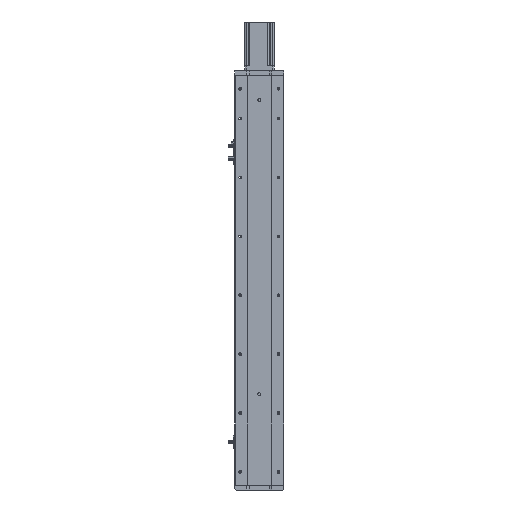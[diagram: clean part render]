
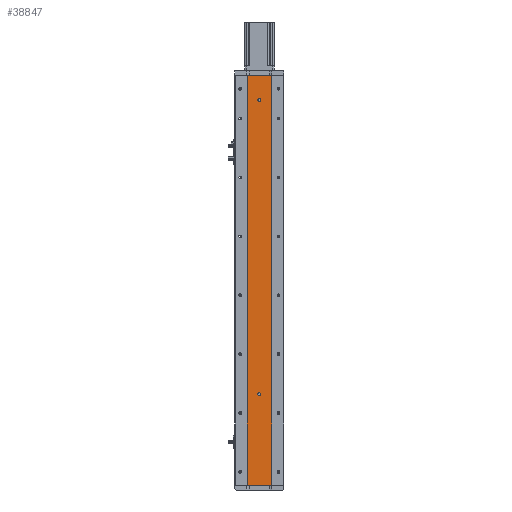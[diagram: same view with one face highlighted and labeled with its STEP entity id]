
A CAD part, left-side view. The second image highlights one B-rep face of the part: STEP entity #38847.
In plain terms, the highlighted planar face has unit normal (-1, 0, 0).
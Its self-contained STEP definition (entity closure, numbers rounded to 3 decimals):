
#51 = VERTEX_POINT ( 'NONE', #19376 ) ;
#591 = ORIENTED_EDGE ( 'NONE', *, *, #18627, .F. ) ;
#660 = DIRECTION ( 'NONE',  ( 0., 0., 1. ) ) ;
#2183 = ORIENTED_EDGE ( 'NONE', *, *, #6222, .T. ) ;
#2382 = CARTESIAN_POINT ( 'NONE',  ( -18.926, 0., 182. ) ) ;
#2389 = EDGE_CURVE ( 'NONE', #14135, #17433, #12291, .T. ) ;
#3902 = EDGE_LOOP ( 'NONE', ( #22778, #591, #15667, #2183 ) ) ;
#4126 = VECTOR ( 'NONE', #36065, 1000. ) ;
#4174 = ORIENTED_EDGE ( 'NONE', *, *, #2389, .F. ) ;
#4323 = VERTEX_POINT ( 'NONE', #34530 ) ;
#4529 = DIRECTION ( 'NONE',  ( -1., 0., 0. ) ) ;
#4809 = CARTESIAN_POINT ( 'NONE',  ( -18.926, 24.785, 0. ) ) ;
#4815 = DIRECTION ( 'NONE',  ( 0., -1., 0. ) ) ;
#5595 = AXIS2_PLACEMENT_3D ( 'NONE', #28554, #9864, #31673 ) ;
#6222 = EDGE_CURVE ( 'NONE', #32697, #33453, #13434, .T. ) ;
#6714 = EDGE_CURVE ( 'NONE', #32697, #4323, #17756, .T. ) ;
#7150 = FACE_BOUND ( 'NONE', #38218, .T. ) ;
#7961 = DIRECTION ( 'NONE',  ( 0., -1., 0. ) ) ;
#8367 = EDGE_LOOP ( 'NONE', ( #4174, #35479 ) ) ;
#8569 = CARTESIAN_POINT ( 'NONE',  ( -18.926, 0., 185. ) ) ;
#9044 = CARTESIAN_POINT ( 'NONE',  ( -18.926, 0., 788. ) ) ;
#9387 = AXIS2_PLACEMENT_3D ( 'NONE', #23168, #4529, #26342 ) ;
#9430 = DIRECTION ( 'NONE',  ( -1., 0., 0. ) ) ;
#9497 = VECTOR ( 'NONE', #4815, 1000. ) ;
#9761 = ORIENTED_EDGE ( 'NONE', *, *, #22047, .F. ) ;
#9864 = DIRECTION ( 'NONE',  ( 1., 0., 0. ) ) ;
#11103 = CARTESIAN_POINT ( 'NONE',  ( -18.926, 24.785, 835. ) ) ;
#11286 = ORIENTED_EDGE ( 'NONE', *, *, #28753, .F. ) ;
#11568 = CIRCLE ( 'NONE', #13459, 3. ) ;
#11712 = DIRECTION ( 'NONE',  ( 0., 0., 1. ) ) ;
#12291 = CIRCLE ( 'NONE', #9387, 3. ) ;
#13434 = LINE ( 'NONE', #17374, #33406 ) ;
#13459 = AXIS2_PLACEMENT_3D ( 'NONE', #8569, #30396, #11712 ) ;
#13474 = FACE_OUTER_BOUND ( 'NONE', #3902, .T. ) ;
#14135 = VERTEX_POINT ( 'NONE', #9044 ) ;
#14238 = VERTEX_POINT ( 'NONE', #37585 ) ;
#15075 = CARTESIAN_POINT ( 'NONE',  ( -18.926, 24.785, 0. ) ) ;
#15667 = ORIENTED_EDGE ( 'NONE', *, *, #6714, .F. ) ;
#16593 = AXIS2_PLACEMENT_3D ( 'NONE', #38050, #19352, #660 ) ;
#16934 = CIRCLE ( 'NONE', #16593, 3. ) ;
#17239 = DIRECTION ( 'NONE',  ( 0., 0., -1. ) ) ;
#17374 = CARTESIAN_POINT ( 'NONE',  ( -18.926, 24.785, 835. ) ) ;
#17433 = VERTEX_POINT ( 'NONE', #22470 ) ;
#17756 = LINE ( 'NONE', #11103, #9497 ) ;
#18573 = EDGE_CURVE ( 'NONE', #33453, #14238, #25603, .T. ) ;
#18627 = EDGE_CURVE ( 'NONE', #4323, #14238, #29015, .T. ) ;
#19352 = DIRECTION ( 'NONE',  ( -1., 0., 0. ) ) ;
#19376 = CARTESIAN_POINT ( 'NONE',  ( -18.926, 0., 188. ) ) ;
#22047 = EDGE_CURVE ( 'NONE', #33419, #51, #11568, .T. ) ;
#22470 = CARTESIAN_POINT ( 'NONE',  ( -18.926, 0., 782. ) ) ;
#22778 = ORIENTED_EDGE ( 'NONE', *, *, #18573, .T. ) ;
#23168 = CARTESIAN_POINT ( 'NONE',  ( -18.926, 0., 785. ) ) ;
#25603 = LINE ( 'NONE', #4809, #37346 ) ;
#26342 = DIRECTION ( 'NONE',  ( 0., 0., 1. ) ) ;
#28127 = CARTESIAN_POINT ( 'NONE',  ( -18.926, 0., 185. ) ) ;
#28554 = CARTESIAN_POINT ( 'NONE',  ( -18.926, 24.785, 835. ) ) ;
#28753 = EDGE_CURVE ( 'NONE', #51, #33419, #35640, .T. ) ;
#29015 = LINE ( 'NONE', #39199, #4126 ) ;
#30396 = DIRECTION ( 'NONE',  ( -1., 0., 0. ) ) ;
#31246 = DIRECTION ( 'NONE',  ( 0., 0., 1. ) ) ;
#31534 = PLANE ( 'NONE',  #5595 ) ;
#31673 = DIRECTION ( 'NONE',  ( 0., 0., -1. ) ) ;
#32697 = VERTEX_POINT ( 'NONE', #38093 ) ;
#33406 = VECTOR ( 'NONE', #17239, 1000. ) ;
#33419 = VERTEX_POINT ( 'NONE', #2382 ) ;
#33453 = VERTEX_POINT ( 'NONE', #15075 ) ;
#34530 = CARTESIAN_POINT ( 'NONE',  ( -18.926, -24.785, 835. ) ) ;
#35479 = ORIENTED_EDGE ( 'NONE', *, *, #35609, .F. ) ;
#35609 = EDGE_CURVE ( 'NONE', #17433, #14135, #16934, .T. ) ;
#35640 = CIRCLE ( 'NONE', #39852, 3. ) ;
#36065 = DIRECTION ( 'NONE',  ( 0., 0., -1. ) ) ;
#37346 = VECTOR ( 'NONE', #7961, 1000. ) ;
#37425 = FACE_BOUND ( 'NONE', #8367, .T. ) ;
#37585 = CARTESIAN_POINT ( 'NONE',  ( -18.926, -24.785, 0. ) ) ;
#38050 = CARTESIAN_POINT ( 'NONE',  ( -18.926, 0., 785. ) ) ;
#38093 = CARTESIAN_POINT ( 'NONE',  ( -18.926, 24.785, 835. ) ) ;
#38218 = EDGE_LOOP ( 'NONE', ( #11286, #9761 ) ) ;
#38847 = ADVANCED_FACE ( 'NONE', ( #7150, #37425, #13474 ), #31534, .F. ) ;
#39199 = CARTESIAN_POINT ( 'NONE',  ( -18.926, -24.785, 835. ) ) ;
#39852 = AXIS2_PLACEMENT_3D ( 'NONE', #28127, #9430, #31246 ) ;
